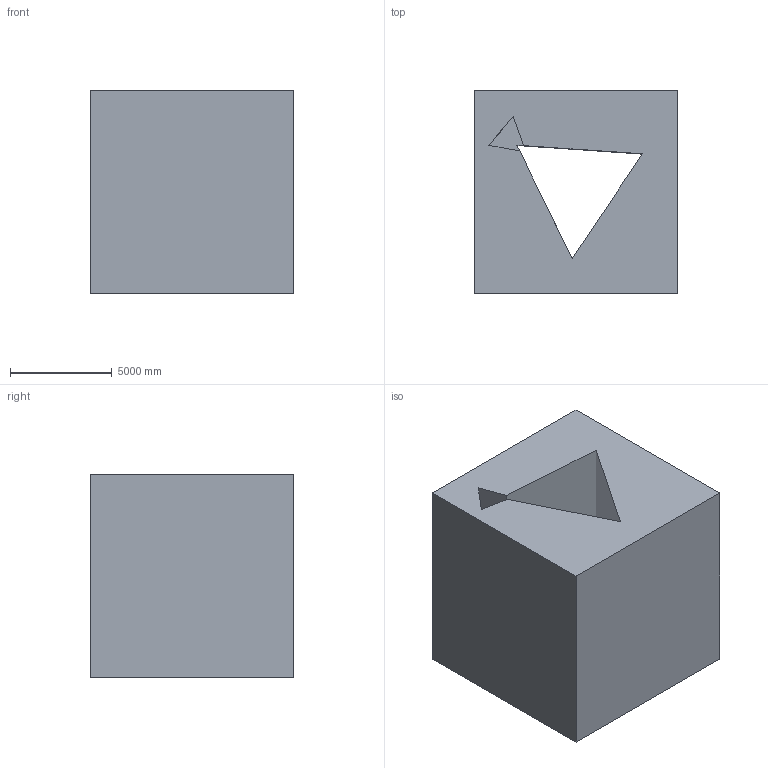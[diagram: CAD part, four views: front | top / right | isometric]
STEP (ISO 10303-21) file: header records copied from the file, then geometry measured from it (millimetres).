
FILE_DESCRIPTION (( 'STEP AP203' ), '1' );
FILE_NAME ('1030.STEP', '2022-08-18T12:29:13', ( 'user' ), ( '' ), 'SwSTEP 2.0', 'SolidWorks 2021', '' );
FILE_SCHEMA (( 'CONFIG_CONTROL_DESIGN' ));
Length unit declared in the file: centimetre
Products named in the file (1): 1030
Bounding box: 10000 x 10000 x 10000 mm (x, y, z)
Volume: 824137577511.3 mm3; surface area: 781169633.8 mm2
Topology: 1 solids, 1 shells, 13 faces, 33 edges, 22 vertices
Faces by surface type: plane 13
Entity records: 468 total; most frequent: CARTESIAN_POINT 69, ORIENTED_EDGE 66, DIRECTION 61, LINE 33, EDGE_CURVE 33, VECTOR 33, VERTEX_POINT 22, EDGE_LOOP 15
